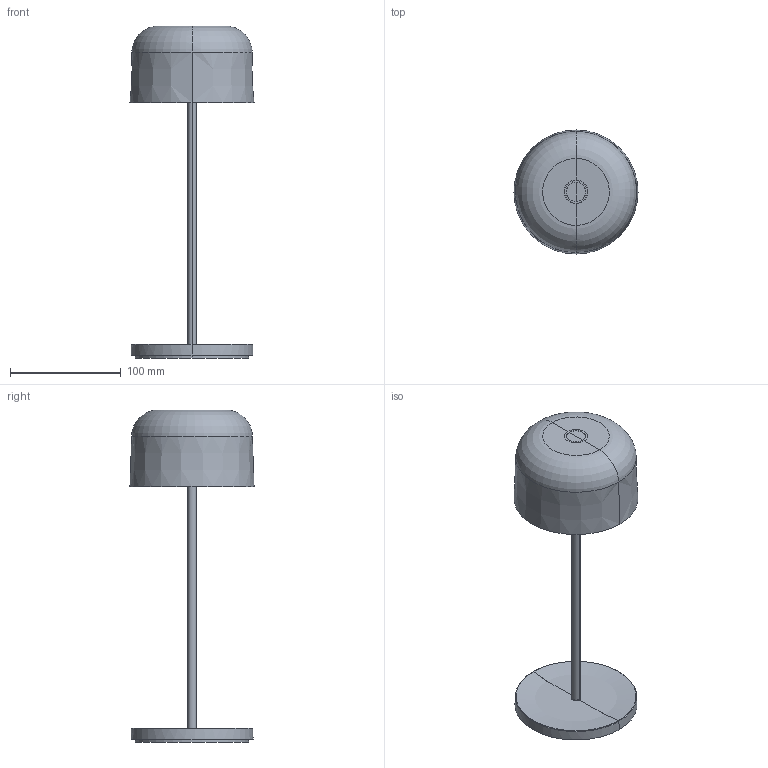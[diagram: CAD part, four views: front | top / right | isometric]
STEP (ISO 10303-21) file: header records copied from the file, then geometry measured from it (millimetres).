
FILE_DESCRIPTION(/* description */ (''),/* implementation_level */ '2;1');
FILE_NAME(/* name */ '71928.step',/* time_stamp */ '2024-09-26T09:33:47+02:00',/* author */ ('RenataManzini'),/* organization */ (''),/* preprocessor_version */ 'ST-DEVELOPER v20',/* originating_system */ 'AutoCAD Mechanical',/* authorisation */ '');
FILE_SCHEMA (('AUTOMOTIVE_DESIGN { 1 0 10303 214 3 1 1 }'));
Length unit declared in the file: millimetre
Products named in the file (2): Product; mavis_360 - pieza-722301-_3D_
Assembly tree (1 placements, depth 2):
  Product
    mavis_360 - pieza-722301-_3D_
Bounding box: 111.91 x 111.91 x 299.34 mm (x, y, z)
Volume: 139754.4 mm3; surface area: 128321.3 mm2
Topology: 6 solids, 6 shells, 106 faces, 228 edges, 132 vertices
Faces by surface type: plane 54, cylinder 28, torus 12, cone 10, bspline 2
Entity records: 3385 total; most frequent: CARTESIAN_POINT 1107, DIRECTION 469, ORIENTED_EDGE 450, EDGE_CURVE 225, AXIS2_PLACEMENT_3D 182, VERTEX_POINT 127, EDGE_LOOP 108, FACE_OUTER_BOUND 106
